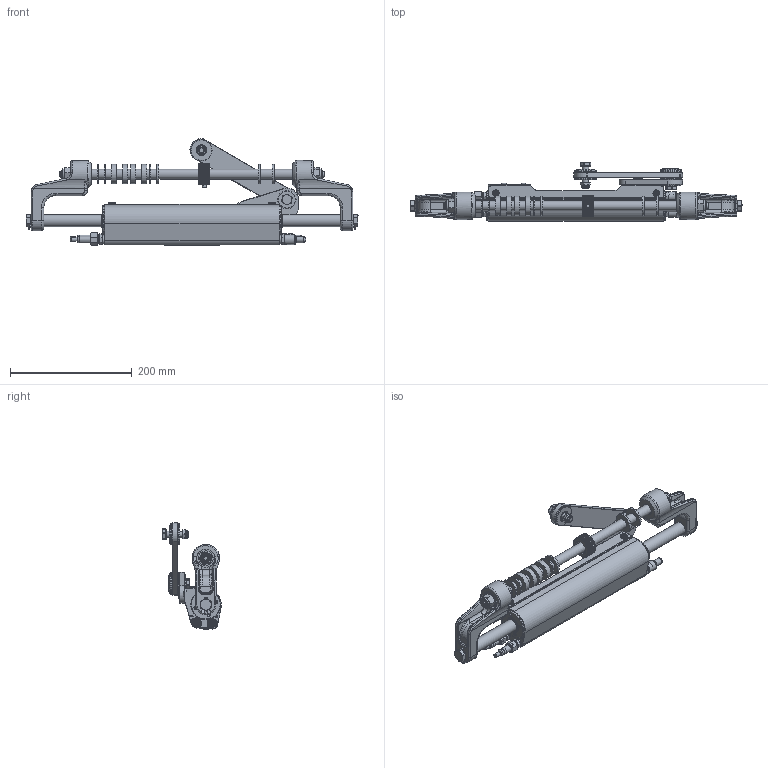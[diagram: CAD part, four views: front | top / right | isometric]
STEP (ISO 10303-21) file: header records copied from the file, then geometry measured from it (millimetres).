
FILE_DESCRIPTION(/* description */ ('Assieme cilindro UC130 Ø36'),/* implementation_level */ '2;1');
FILE_NAME(/* name */ '\\SERVERB\PdfTecnico\Modelli 3D per sito internet\2-SISTEMI DI STERZO IDRAULICI\UC130 STB-1 .stp',/* time_stamp */ '2021-02-08T11:36:53+01:00',/* author */ ('w.trivella'),/* organization */ (''),/* preprocessor_version */ 'ST-DEVELOPER v18',/* originating_system */ 'Autodesk Inventor 2020',/* authorisation */ '');
FILE_SCHEMA (('AUTOMOTIVE_DESIGN { 1 0 10303 214 3 1 1 }'));
Length unit declared in the file: millimetre
Products named in the file (53): 33278 Assieme UC130 STB-1; 33495  ; 33222  ; 33251; 33258; 33110; 21554; 18042; 21787; 21743; 21745; 21681; 18823; 21682; 18134; 18135; 18982; 19097; 32634 ; 33256; 25462 ; 28123; 21702; 18137; 18129; 21693; 22823; 18136; 34528; 22588; 5260; 18820; 34606; 18131; 20303; 33857; 33360; 6674; 20395 ; 33099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
Assembly tree (88 placements, depth 2):
  33278 Assieme UC130 STB-1
    33222    x2
    33495  
    33251
    33258
    33099  x2
    33110  x2
    21554
    18042
    21787  x2
    21743  x2
    21745  x2
    21681
    25462   x2
    28123  x2
    34528  x4
    18823  x2
    21682
    18137  x2
    18129  x2
    18134  x2
    18135  x4
    18982
    18136  x3
    19097  x2
    32634   x2
    33256  x2
    21702  x2
    21693  x2
    22823
    22588  x2
    5260  x2
    18820  x2
    34606
    18131
    20303
    33857
    33360
    6674
    20395   x2
    25107  x2
    9591
    9601
    33883 
    33885
    33888  x2
    33889  x2
    33906  x4
    809
    33862
    33886
    34527 
    34250  x2
Bounding box: 544.9 x 96.33 x 174.99 mm (x, y, z)
Volume: 1285314.2 mm3; surface area: 414610.3 mm2
Topology: 86 solids, 86 shells, 2989 faces, 7470 edges, 4918 vertices
Faces by surface type: plane 1524, cylinder 560, cone 413, torus 300, bspline 185, sphere 7
Full cylindrical faces by diameter (mm): 1.5 x4, 3.2 x2, 3.242 x1, 3.571 x1, 3.6 x1, 4 x1, 4.8 x2, 4.9 x10, 4.978 x2, 5 x1, 5.1 x3, 5.359 x2, 5.5 x2, 6 x2, 6.35 x3, 6.7 x2, 7.2 x4, 7.5 x1, 7.6 x1, 8 x8, 8.05 x2, 8.382 x1, 8.611 x1, 8.8 x4, 9.4 x2, 9.5 x4, 9.525 x3, 9.8 x4, 10 x4, 10.106 x2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
Entity records: 76496 total; most frequent: CARTESIAN_POINT 19127, DIRECTION 11605, ORIENTED_EDGE 11484, EDGE_CURVE 5742, AXIS2_PLACEMENT_3D 4493, VERTEX_POINT 3808, EDGE_LOOP 2666, LINE 2619
